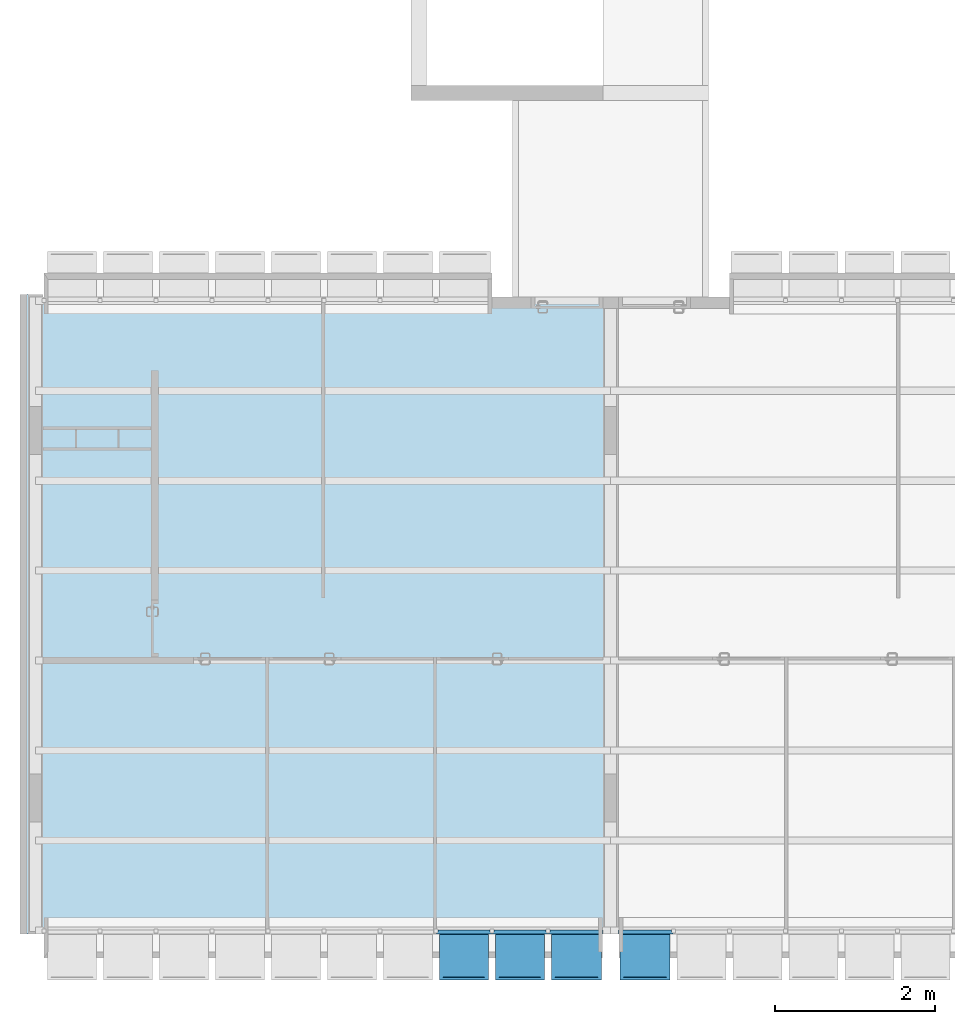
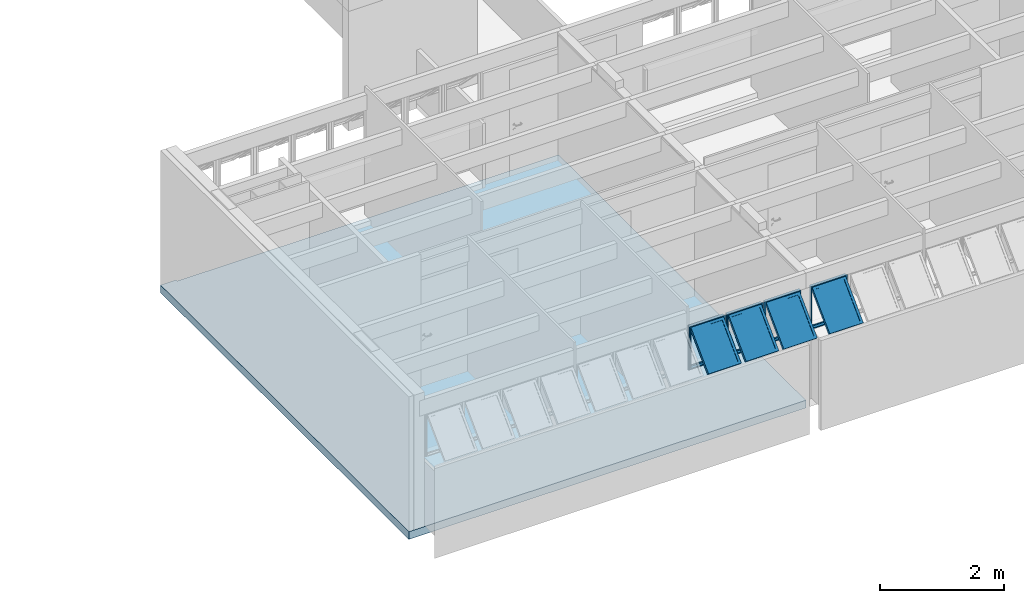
# One storey, part 5 of 40: 4 plates, 1 slab, 2 elements without a shape of their own.
"""IFC4 building model written with IfcOpenShell, lengths in millimetres."""

from ifc_helpers import new_model, entity, si_unit, converted_unit, derived_unit, direction, frame, origin_with_axes, place, context, subcontext, project, spatial, line, indexed_curve, outline, extrude, polygons, source, transform, mapped, material, layer, layer_set, layer_usage, constituent, constituent_set, type_object, element, aggregate, save


model = new_model("IFC4")

# Units and contexts
model_context = context("Model", 3, precision=0.01, world=origin_with_axes(), true_north=direction((0.0, 1.0)))
body_context = subcontext(model_context, "Body", "Model", "MODEL_VIEW")
ifc_project = project(units=[si_unit("LENGTHUNIT", "METRE", prefix="MILLI"), si_unit("AREAUNIT", "SQUARE_METRE"), si_unit("VOLUMEUNIT", "CUBIC_METRE"), converted_unit("PLANEANGLEUNIT", "DEGREE", entity("IfcPlaneAngleMeasure", 0.0174532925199), si_unit("PLANEANGLEUNIT", "RADIAN"), dimensions=[0, 0, 0, 0, 0, 0, 0]), converted_unit("TIMEUNIT", "Year", entity("IfcTimeMeasure", 31556926.0), si_unit("TIMEUNIT", "SECOND"), dimensions=[0, 0, 1, 0, 0, 0, 0]), si_unit("MASSUNIT", "GRAM", prefix="KILO"), si_unit("THERMODYNAMICTEMPERATUREUNIT", "DEGREE_CELSIUS"), si_unit("LUMINOUSINTENSITYUNIT", "LUMEN"), si_unit("ENERGYUNIT", "JOULE", prefix="MEGA"), derived_unit("THERMALCONDUCTANCEUNIT", [(si_unit("POWERUNIT", "WATT"), 1), (si_unit("LENGTHUNIT", "METRE"), -1), (si_unit("THERMODYNAMICTEMPERATUREUNIT", "KELVIN"), -1)]), derived_unit("SPECIFICHEATCAPACITYUNIT", [(si_unit("ENERGYUNIT", "JOULE"), 1), (si_unit("MASSUNIT", "GRAM", prefix="KILO"), -1), (si_unit("THERMODYNAMICTEMPERATUREUNIT", "KELVIN"), -1)]), derived_unit("MASSDENSITYUNIT", [(si_unit("MASSUNIT", "GRAM", prefix="KILO"), 1), (si_unit("VOLUMEUNIT", "CUBIC_METRE"), -1)])], contexts=[model_context])

# Site, building, storey
site_placement = place(None, origin_with_axes())
site = spatial("IfcSite", under=ifc_project, at=site_placement, Name="Local", CompositionType="ELEMENT")
building_placement = place(site_placement, origin_with_axes())
building = spatial("IfcBuilding", under=site, at=building_placement, Name="Construção", CompositionType="ELEMENT")
storey_placement = place(building_placement, frame((0.0, 0.0, 5300.0), z_axis=(0.0, 0.0, 1.0), x_axis=(1.0, 0.0, 0.0)))
storey = spatial("IfcBuildingStorey", under=building, at=storey_placement, Name="Terceiro Pavimento", CompositionType="ELEMENT", Elevation=5300.0)

# Slab
ifc_material_1 = material(Name="Concreto Armado Moldado in Loco - Estrutural")
ifc_layer = layer(ifc_material_1, 150.0, ventilated="UNKNOWN", Name="Concreto Armado Moldado in Loco - Estrutural")
ifc_layer_set = layer_set([ifc_layer], Name="Concreto Armado Moldado in Loco - Estrutural 150")
ifc_layer_usage = layer_usage(ifc_layer_set, "AXIS3", "NEGATIVE", 150.0)
slab_type = type_object("IfcSlabType", Name="Concreto Armado Moldado in Loco - Estrutural 150", PredefinedType="FLOOR")
slab_placement = place(storey_placement, frame((0.0, 300.0, 0.0), z_axis=(0.0, 0.0, 1.0), x_axis=(1.0, 0.0, 0.0)))
element("IfcSlab", 1, at=slab_placement, inside=storey, type_object=slab_type, material=ifc_layer_usage, Name="APTO9-LAJE-000", PredefinedType="FLOOR", context=body_context, shape_type="SweptSolid", body=[
    extrude(outline(indexed_curve([(0.0, 0.0), (299.999978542, 0.0), (7385.0, 0.0), (7385.0, 7964.99999866), (6160.00008404, 7964.99999866), (5900.0, 7965.0), (290.0, 7965.0), (289.999999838, 8000.00000006), (0.0, 7999.99999872)], segments=[line(1, 2, 3, 4, 5, 6, 7, 8, 9, 1)])), frame((0.0, 0.0, -150.0), z_axis=(0.0, 0.0, 1.0), x_axis=(1.0, 0.0, 0.0)), (0.0, 0.0, 1.0), 150.0),
])

# Window, plates
window_type = type_object("IfcWindowType", Name="Tipo de Parede Cortina", PartitioningType="NOTDEFINED", PredefinedType="NOTDEFINED")
window_1_placement = place(storey_placement, frame((6250.0, 315.020977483, 1355.02054151), z_axis=(0.0, 0.0, 1.0), x_axis=(1.0, 0.0, 0.0)))
window_1 = element("IfcWindow", 2, at=window_1_placement, inside=storey, type_object=window_type, Name="APTO9-JANELA-001", PredefinedType="NOTDEFINED")
ifc_material_2 = material(Name="Alumínio")
ifc_constituent_1 = constituent(ifc_material_2, Name="Alumínio")
ifc_material_3 = material(Name="Vidro")
ifc_constituent_2 = constituent(ifc_material_3, Name="Vidro")
ifc_constituent_set_1 = constituent_set(constituents=[ifc_constituent_1, ifc_constituent_2])
plate_type_1 = type_object("IfcPlateType", Name="Painel Principal 690 x 845 x 20", PredefinedType="CURTAIN_PANEL")
shared_shape_1 = source(origin_with_axes(), body_context, "Body", "Tessellation", [
    polygons([(25.0000036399, 0.0, -40.0), (674.999997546, 0.0, -40.0), (674.999997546, 0.0, -35.0), (25.0000036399, 0.0, -35.0), (70.0000036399, 45.0, -40.0), (629.999997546, 45.0, -40.0), (629.999997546, 45.0, -35.0), (70.0000036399, 45.0, -35.0)], [[[1, 2, 3, 4]], [[1, 5, 6, 2]], [[2, 6, 7, 3]], [[4, 3, 7, 8]], [[5, 1, 4, 8]], [[6, 5, 8, 7]]], closed=True),
    polygons([(674.999997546, 0.0, -40.0), (674.999997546, 844.999891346, -40.0), (674.999997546, 844.999891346, -35.0), (674.999997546, 0.0, -35.0), (629.999997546, 45.0, -40.0), (629.999997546, 799.999891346, -40.0), (629.999997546, 799.999891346, -35.0), (629.999997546, 45.0, -35.0)], [[[1, 2, 3, 4]], [[1, 5, 6, 2]], [[2, 6, 7, 3]], [[4, 3, 7, 8]], [[5, 1, 4, 8]], [[6, 5, 8, 7]]], closed=True),
    polygons([(25.0000036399, 844.999891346, -40.0), (70.0000036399, 799.999891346, -40.0), (70.0000036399, 799.999891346, -35.0), (25.0000036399, 844.999891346, -35.0), (674.999997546, 844.999891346, -40.0), (629.999997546, 799.999891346, -40.0), (629.999997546, 799.999891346, -35.0), (674.999997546, 844.999891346, -35.0)], [[[1, 2, 3, 4]], [[1, 5, 6, 2]], [[2, 6, 7, 3]], [[4, 3, 7, 8]], [[5, 1, 4, 8]], [[6, 5, 8, 7]]], closed=True),
    polygons([(25.0000036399, 0.0, -40.0), (70.0000036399, 45.0, -40.0), (70.0000036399, 45.0, -35.0), (25.0000036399, 0.0, -35.0), (25.0000036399, 844.999891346, -40.0), (70.0000036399, 799.999891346, -40.0), (70.0000036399, 799.999891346, -35.0), (25.0000036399, 844.999891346, -35.0)], [[[1, 2, 3, 4]], [[1, 5, 6, 2]], [[2, 6, 7, 3]], [[4, 3, 7, 8]], [[5, 1, 4, 8]], [[6, 5, 8, 7]]], closed=True),
    polygons([(25.0000036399, 0.0, -35.0), (674.999997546, 0.0, -35.0), (674.999997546, 0.0, 15.0), (25.0000036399, 0.0, 15.0), (45.0000036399, 20.0, -35.0), (654.999997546, 20.0, -35.0), (654.999997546, 20.0, 15.0), (45.0000036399, 20.0, 15.0)], [[[1, 2, 3, 4]], [[1, 5, 6, 2]], [[2, 6, 7, 3]], [[4, 3, 7, 8]], [[5, 1, 4, 8]], [[6, 5, 8, 7]]], closed=True),
    polygons([(674.999997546, 0.0, -35.0), (674.999997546, 844.999891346, -35.0), (674.999997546, 844.999891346, 15.0), (674.999997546, 0.0, 15.0), (654.999997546, 20.0, -35.0), (654.999997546, 824.999891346, -35.0), (654.999997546, 824.999891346, 15.0), (654.999997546, 20.0, 15.0)], [[[1, 2, 3, 4]], [[1, 5, 6, 2]], [[2, 6, 7, 3]], [[4, 3, 7, 8]], [[5, 1, 4, 8]], [[6, 5, 8, 7]]], closed=True),
    polygons([(25.0000036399, 844.999891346, -35.0), (45.0000036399, 824.999891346, -35.0), (45.0000036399, 824.999891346, 15.0), (25.0000036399, 844.999891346, 15.0), (674.999997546, 844.999891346, -35.0), (654.999997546, 824.999891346, -35.0), (654.999997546, 824.999891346, 15.0), (674.999997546, 844.999891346, 15.0)], [[[1, 2, 3, 4]], [[1, 5, 6, 2]], [[2, 6, 7, 3]], [[4, 3, 7, 8]], [[5, 1, 4, 8]], [[6, 5, 8, 7]]], closed=True),
    polygons([(25.0000036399, 0.0, -35.0), (45.0000036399, 20.0, -35.0), (45.0000036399, 20.0, 15.0), (25.0000036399, 0.0, 15.0), (25.0000036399, 844.999891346, -35.0), (45.0000036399, 824.999891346, -35.0), (45.0000036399, 824.999891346, 15.0), (25.0000036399, 844.999891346, 15.0)], [[[1, 2, 3, 4]], [[1, 5, 6, 2]], [[2, 6, 7, 3]], [[4, 3, 7, 8]], [[5, 1, 4, 8]], [[6, 5, 8, 7]]], closed=True),
    polygons([(694.999995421, 0.0, -10.0), (694.999995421, 844.999891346, -10.0), (694.999995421, 844.999891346, 10.0), (694.999995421, 0.0, 10.0), (674.999997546, 0.0, -10.0), (674.999997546, 844.999891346, -10.0), (674.999997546, 844.999891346, 10.0), (674.999997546, 0.0, 10.0)], [[[1, 2, 3, 4]], [[1, 5, 6, 2]], [[2, 6, 7, 3]], [[4, 3, 7, 8]], [[5, 1, 4, 8]], [[6, 5, 8, 7]]], closed=True),
    polygons([(5.00000576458, 844.999891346, -10.0), (5.00000576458, 0.0, -10.0), (5.00000576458, 0.0, 10.0), (5.00000576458, 844.999891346, 10.0), (25.0000036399, 844.999891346, -10.0), (25.0000036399, 0.0, -10.0), (25.0000036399, 0.0, 10.0), (25.0000036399, 844.999891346, 10.0)], [[[1, 2, 3, 4]], [[1, 5, 6, 2]], [[2, 6, 7, 3]], [[4, 3, 7, 8]], [[5, 1, 4, 8]], [[6, 5, 8, 7]]], closed=True),
    polygons([(90.0000036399, 252.243475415, 517.045737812), (90.0000036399, 757.824747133, 11.4644660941), (90.0000036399, 796.715620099, 50.3553390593), (90.0000036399, 291.13434838, 555.936610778), (45.0000036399, 220.423670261, 548.865542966), (45.0000036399, 789.644552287, -20.3553390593), (45.0000036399, 828.535425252, 18.5355339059), (45.0000036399, 259.314543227, 587.756415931)], [[[1, 2, 3, 4]], [[1, 5, 6, 2]], [[2, 6, 7, 3]], [[4, 3, 7, 8]], [[5, 1, 4, 8]], [[6, 5, 8, 7]]], closed=True),
    polygons([(654.999997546, 220.423670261, 548.865542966), (654.999997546, 789.644552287, -20.3553390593), (654.999997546, 828.535425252, 18.5355339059), (654.999997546, 259.314543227, 587.756415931), (609.999997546, 252.243475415, 517.045737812), (609.999997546, 757.824747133, 11.4644660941), (609.999997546, 796.715620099, 50.3553390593), (609.999997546, 291.13434838, 555.936610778)], [[[1, 2, 3, 4]], [[1, 5, 6, 2]], [[2, 6, 7, 3]], [[4, 3, 7, 8]], [[5, 1, 4, 8]], [[6, 5, 8, 7]]], closed=True),
    polygons([(654.999997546, 220.423670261, 548.865542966), (609.999997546, 252.243475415, 517.045737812), (609.999997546, 291.13434838, 555.936610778), (654.999997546, 259.314543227, 587.756415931), (45.0000036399, 220.423670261, 548.865542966), (90.0000036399, 252.243475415, 517.045737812), (90.0000036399, 291.13434838, 555.936610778), (45.0000036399, 259.314543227, 587.756415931)], [[[1, 2, 3, 4]], [[1, 5, 6, 2]], [[2, 6, 7, 3]], [[4, 3, 7, 8]], [[5, 1, 4, 8]], [[6, 5, 8, 7]]], closed=True),
    polygons([(45.0000036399, 789.644552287, -20.3553390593), (90.0000036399, 757.824747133, 11.4644660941), (90.0000036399, 796.715620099, 50.3553390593), (45.0000036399, 828.535425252, 18.5355339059), (654.999997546, 789.644552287, -20.3553390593), (609.999997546, 757.824747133, 11.4644660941), (609.999997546, 796.715620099, 50.3553390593), (654.999997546, 828.535425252, 18.5355339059)], [[[1, 2, 3, 4]], [[1, 5, 6, 2]], [[2, 6, 7, 3]], [[4, 3, 7, 8]], [[5, 1, 4, 8]], [[6, 5, 8, 7]]], closed=True),
    polygons([(90.0000036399, 272.749572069, 537.551834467), (609.999997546, 272.749572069, 537.551834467), (609.999997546, 284.063280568, 548.865542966), (90.0000036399, 284.063280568, 548.865542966), (90.0000036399, 778.330843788, 31.9705627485), (609.999997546, 778.330843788, 31.9705627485), (609.999997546, 789.644552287, 43.2842712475), (90.0000036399, 789.644552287, 43.2842712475)], [[[1, 2, 3, 4]], [[1, 5, 6, 2]], [[2, 6, 7, 3]], [[4, 3, 7, 8]], [[5, 1, 4, 8]], [[6, 5, 8, 7]]], closed=True),
])
plate_1_placement = place(window_1_placement, frame((0.0, 0.0, 422.499945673), z_axis=(0.0, 0.0, 1.0), x_axis=(-1.0, 0.0, 0.0)))
plate_1 = element("IfcPlate", 3, at=plate_1_placement, type_object=plate_type_1, material=ifc_constituent_set_1, Name="APTO9-Painel-Prin-030", PredefinedType="CURTAIN_PANEL", context=body_context, shape_type="MappedRepresentation", body=[
    mapped(shared_shape_1, transform((350.0, 0.0, -422.499945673), x_axis=(-1.0, 0.0, 0.0), y_axis=(0.0, 0.0, 1.0), z_axis=(0.0, 1.0, 0.0))),
])
ifc_constituent_3 = constituent(ifc_material_2, Name="Alumínio")
ifc_constituent_4 = constituent(ifc_material_3, Name="Vidro")
ifc_constituent_set_2 = constituent_set(constituents=[ifc_constituent_3, ifc_constituent_4])
plate_2_placement = place(window_1_placement, frame((-700.0, 0.0, 422.499945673), z_axis=(0.0, 0.0, 1.0), x_axis=(-1.0, 0.0, 0.0)))
plate_2 = element("IfcPlate", 4, at=plate_2_placement, type_object=plate_type_1, material=ifc_constituent_set_2, Name="APTO9-Painel-Prin-020", PredefinedType="CURTAIN_PANEL", context=body_context, shape_type="MappedRepresentation", body=[
    mapped(shared_shape_1, transform((350.0, 0.0, -422.499945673), x_axis=(-1.0, 0.0, 0.0), y_axis=(0.0, 0.0, 1.0), z_axis=(0.0, 1.0, 0.0))),
])
ifc_constituent_5 = constituent(ifc_material_2, Name="Alumínio")
ifc_constituent_6 = constituent(ifc_material_3, Name="Vidro")
ifc_constituent_set_3 = constituent_set(constituents=[ifc_constituent_5, ifc_constituent_6])
plate_type_2 = type_object("IfcPlateType", Name="Painel Principal 685 x 845 x 20", PredefinedType="CURTAIN_PANEL")
shared_shape_2 = source(origin_with_axes(), body_context, "Body", "Tessellation", [
    polygons([(25.0000046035, 0.0, -40.0), (690.000079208, 0.0, -40.0), (690.000079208, 0.0, -35.0), (25.0000046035, 0.0, -35.0), (70.0000046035, 45.0, -40.0), (645.000079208, 45.0, -40.0), (645.000079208, 45.0, -35.0), (70.0000046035, 45.0, -35.0)], [[[1, 2, 3, 4]], [[1, 5, 6, 2]], [[2, 6, 7, 3]], [[4, 3, 7, 8]], [[5, 1, 4, 8]], [[6, 5, 8, 7]]], closed=True),
    polygons([(690.000079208, 0.0, -40.0), (690.000079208, 844.999923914, -40.0), (690.000079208, 844.999923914, -35.0), (690.000079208, 0.0, -35.0), (645.000079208, 45.0, -40.0), (645.000079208, 799.999923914, -40.0), (645.000079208, 799.999923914, -35.0), (645.000079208, 45.0, -35.0)], [[[1, 2, 3, 4]], [[1, 5, 6, 2]], [[2, 6, 7, 3]], [[4, 3, 7, 8]], [[5, 1, 4, 8]], [[6, 5, 8, 7]]], closed=True),
    polygons([(25.0000046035, 844.999923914, -40.0), (70.0000046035, 799.999923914, -40.0), (70.0000046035, 799.999923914, -35.0), (25.0000046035, 844.999923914, -35.0), (690.000079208, 844.999923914, -40.0), (645.000079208, 799.999923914, -40.0), (645.000079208, 799.999923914, -35.0), (690.000079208, 844.999923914, -35.0)], [[[1, 2, 3, 4]], [[1, 5, 6, 2]], [[2, 6, 7, 3]], [[4, 3, 7, 8]], [[5, 1, 4, 8]], [[6, 5, 8, 7]]], closed=True),
    polygons([(25.0000046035, 0.0, -40.0), (70.0000046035, 45.0, -40.0), (70.0000046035, 45.0, -35.0), (25.0000046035, 0.0, -35.0), (25.0000046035, 844.999923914, -40.0), (70.0000046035, 799.999923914, -40.0), (70.0000046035, 799.999923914, -35.0), (25.0000046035, 844.999923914, -35.0)], [[[1, 2, 3, 4]], [[1, 5, 6, 2]], [[2, 6, 7, 3]], [[4, 3, 7, 8]], [[5, 1, 4, 8]], [[6, 5, 8, 7]]], closed=True),
    polygons([(25.0000046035, 0.0, -35.0), (690.000079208, 0.0, -35.0), (690.000079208, 0.0, 15.0), (25.0000046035, 0.0, 15.0), (45.0000046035, 20.0, -35.0), (670.000079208, 20.0, -35.0), (670.000079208, 20.0, 15.0), (45.0000046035, 20.0, 15.0)], [[[1, 2, 3, 4]], [[1, 5, 6, 2]], [[2, 6, 7, 3]], [[4, 3, 7, 8]], [[5, 1, 4, 8]], [[6, 5, 8, 7]]], closed=True),
    polygons([(690.000079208, 0.0, -35.0), (690.000079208, 844.999923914, -35.0), (690.000079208, 844.999923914, 15.0), (690.000079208, 0.0, 15.0), (670.000079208, 20.0, -35.0), (670.000079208, 824.999923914, -35.0), (670.000079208, 824.999923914, 15.0), (670.000079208, 20.0, 15.0)], [[[1, 2, 3, 4]], [[1, 5, 6, 2]], [[2, 6, 7, 3]], [[4, 3, 7, 8]], [[5, 1, 4, 8]], [[6, 5, 8, 7]]], closed=True),
    polygons([(25.0000046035, 844.999923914, -35.0), (45.0000046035, 824.999923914, -35.0), (45.0000046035, 824.999923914, 15.0), (25.0000046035, 844.999923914, 15.0), (690.000079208, 844.999923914, -35.0), (670.000079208, 824.999923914, -35.0), (670.000079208, 824.999923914, 15.0), (690.000079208, 844.999923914, 15.0)], [[[1, 2, 3, 4]], [[1, 5, 6, 2]], [[2, 6, 7, 3]], [[4, 3, 7, 8]], [[5, 1, 4, 8]], [[6, 5, 8, 7]]], closed=True),
    polygons([(25.0000046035, 0.0, -35.0), (45.0000046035, 20.0, -35.0), (45.0000046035, 20.0, 15.0), (25.0000046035, 0.0, 15.0), (25.0000046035, 844.999923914, -35.0), (45.0000046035, 824.999923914, -35.0), (45.0000046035, 824.999923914, 15.0), (25.0000046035, 844.999923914, 15.0)], [[[1, 2, 3, 4]], [[1, 5, 6, 2]], [[2, 6, 7, 3]], [[4, 3, 7, 8]], [[5, 1, 4, 8]], [[6, 5, 8, 7]]], closed=True),
    polygons([(5.00000595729, 844.999923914, -10.0), (5.00000595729, 0.0, -10.0), (5.00000595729, 0.0, 10.0), (5.00000595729, 844.999923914, 10.0), (25.0000046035, 844.999923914, -10.0), (25.0000046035, 0.0, -10.0), (25.0000046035, 0.0, 10.0), (25.0000046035, 844.999923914, 10.0)], [[[1, 2, 3, 4]], [[1, 5, 6, 2]], [[2, 6, 7, 3]], [[4, 3, 7, 8]], [[5, 1, 4, 8]], [[6, 5, 8, 7]]], closed=True),
    polygons([(90.0000046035, 252.243484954, 517.045760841), (90.0000046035, 757.824779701, 11.4644660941), (90.0000046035, 796.715652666, 50.3553390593), (90.0000046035, 291.134357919, 555.936633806), (45.0000046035, 220.4236798, 548.865565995), (45.0000046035, 789.644584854, -20.3553390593), (45.0000046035, 828.535457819, 18.5355339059), (45.0000046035, 259.314552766, 587.75643896)], [[[1, 2, 3, 4]], [[1, 5, 6, 2]], [[2, 6, 7, 3]], [[4, 3, 7, 8]], [[5, 1, 4, 8]], [[6, 5, 8, 7]]], closed=True),
    polygons([(670.000079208, 220.4236798, 548.865565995), (670.000079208, 789.644584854, -20.3553390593), (670.000079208, 828.535457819, 18.5355339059), (670.000079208, 259.314552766, 587.75643896), (625.000079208, 252.243484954, 517.045760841), (625.000079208, 757.824779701, 11.4644660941), (625.000079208, 796.715652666, 50.3553390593), (625.000079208, 291.134357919, 555.936633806)], [[[1, 2, 3, 4]], [[1, 5, 6, 2]], [[2, 6, 7, 3]], [[4, 3, 7, 8]], [[5, 1, 4, 8]], [[6, 5, 8, 7]]], closed=True),
    polygons([(670.000079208, 220.4236798, 548.865565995), (625.000079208, 252.243484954, 517.045760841), (625.000079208, 291.134357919, 555.936633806), (670.000079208, 259.314552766, 587.75643896), (45.0000046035, 220.4236798, 548.865565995), (90.0000046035, 252.243484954, 517.045760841), (90.0000046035, 291.134357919, 555.936633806), (45.0000046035, 259.314552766, 587.75643896)], [[[1, 2, 3, 4]], [[1, 5, 6, 2]], [[2, 6, 7, 3]], [[4, 3, 7, 8]], [[5, 1, 4, 8]], [[6, 5, 8, 7]]], closed=True),
    polygons([(45.0000046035, 789.644584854, -20.3553390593), (90.0000046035, 757.824779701, 11.4644660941), (90.0000046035, 796.715652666, 50.3553390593), (45.0000046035, 828.535457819, 18.5355339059), (670.000079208, 789.644584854, -20.3553390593), (625.000079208, 757.824779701, 11.4644660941), (625.000079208, 796.715652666, 50.3553390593), (670.000079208, 828.535457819, 18.5355339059)], [[[1, 2, 3, 4]], [[1, 5, 6, 2]], [[2, 6, 7, 3]], [[4, 3, 7, 8]], [[5, 1, 4, 8]], [[6, 5, 8, 7]]], closed=True),
    polygons([(90.0000046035, 272.749581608, 537.551857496), (625.000079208, 272.749581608, 537.551857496), (625.000079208, 284.063290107, 548.865565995), (90.0000046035, 284.063290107, 548.865565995), (90.0000046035, 778.330876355, 31.9705627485), (625.000079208, 778.330876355, 31.9705627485), (625.000079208, 789.644584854, 43.2842712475), (90.0000046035, 789.644584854, 43.2842712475)], [[[1, 2, 3, 4]], [[1, 5, 6, 2]], [[2, 6, 7, 3]], [[4, 3, 7, 8]], [[5, 1, 4, 8]], [[6, 5, 8, 7]]], closed=True),
])
plate_3_placement = place(window_1_placement, frame((695.000037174, 0.0, 422.499953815), z_axis=(0.0, 0.0, 1.0), x_axis=(-1.0, 0.0, 0.0)))
plate_3 = element("IfcPlate", 5, at=plate_3_placement, type_object=plate_type_2, material=ifc_constituent_set_3, Name="APTO9-Painel-Prin-031", PredefinedType="CURTAIN_PANEL", context=body_context, shape_type="MappedRepresentation", body=[
    mapped(shared_shape_2, transform((345.000037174, 0.0, -422.499953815), x_axis=(-1.0, 0.0, 0.0), y_axis=(0.0, 0.0, 1.0), z_axis=(0.0, 1.0, 0.0))),
])
aggregate(window_1, [plate_1, plate_3, plate_2])

# Window, plate
window_2_placement = place(storey_placement, frame((8520.0, 315.020977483, 1355.02054151), z_axis=(0.0, 0.0, 1.0), x_axis=(1.0, 0.0, 0.0)))
window_2 = element("IfcWindow", 6, at=window_2_placement, inside=storey, type_object=window_type, Name="APTO10-JANELA-001", PredefinedType="NOTDEFINED")
ifc_constituent_7 = constituent(ifc_material_2, Name="Alumínio")
ifc_constituent_8 = constituent(ifc_material_3, Name="Vidro")
ifc_constituent_set_4 = constituent_set(constituents=[ifc_constituent_7, ifc_constituent_8])
shared_shape_3 = source(origin_with_axes(), body_context, "Body", "Tessellation", [
    polygons([(-25.0000046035, 0.0, -40.0), (-25.0000046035, 0.0, -35.0), (-690.000079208, 0.0, -35.0), (-690.000079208, 0.0, -40.0), (-70.0000046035, 45.0, -40.0), (-70.0000046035, 45.0, -35.0), (-645.000079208, 45.0, -35.0), (-645.000079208, 45.0, -40.0)], [[[1, 2, 3, 4]], [[5, 6, 2, 1]], [[2, 6, 7, 3]], [[4, 3, 7, 8]], [[1, 4, 8, 5]], [[8, 7, 6, 5]]], closed=True),
    polygons([(-690.000079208, 0.0, -40.0), (-690.000079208, 0.0, -35.0), (-690.000079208, 844.999923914, -35.0), (-690.000079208, 844.999923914, -40.0), (-645.000079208, 45.0, -40.0), (-645.000079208, 45.0, -35.0), (-645.000079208, 799.999923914, -35.0), (-645.000079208, 799.999923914, -40.0)], [[[1, 2, 3, 4]], [[5, 6, 2, 1]], [[2, 6, 7, 3]], [[4, 3, 7, 8]], [[1, 4, 8, 5]], [[8, 7, 6, 5]]], closed=True),
    polygons([(-25.0000046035, 844.999923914, -40.0), (-25.0000046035, 844.999923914, -35.0), (-70.0000046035, 799.999923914, -35.0), (-70.0000046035, 799.999923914, -40.0), (-690.000079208, 844.999923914, -40.0), (-690.000079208, 844.999923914, -35.0), (-645.000079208, 799.999923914, -35.0), (-645.000079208, 799.999923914, -40.0)], [[[1, 2, 3, 4]], [[5, 6, 2, 1]], [[2, 6, 7, 3]], [[4, 3, 7, 8]], [[1, 4, 8, 5]], [[8, 7, 6, 5]]], closed=True),
    polygons([(-25.0000046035, 0.0, -40.0), (-25.0000046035, 0.0, -35.0), (-70.0000046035, 45.0, -35.0), (-70.0000046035, 45.0, -40.0), (-25.0000046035, 844.999923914, -40.0), (-25.0000046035, 844.999923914, -35.0), (-70.0000046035, 799.999923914, -35.0), (-70.0000046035, 799.999923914, -40.0)], [[[1, 2, 3, 4]], [[5, 6, 2, 1]], [[2, 6, 7, 3]], [[4, 3, 7, 8]], [[1, 4, 8, 5]], [[8, 7, 6, 5]]], closed=True),
    polygons([(-25.0000046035, 0.0, -35.0), (-25.0000046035, 0.0, 15.0), (-690.000079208, 0.0, 15.0), (-690.000079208, 0.0, -35.0), (-45.0000046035, 20.0, -35.0), (-45.0000046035, 20.0, 15.0), (-670.000079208, 20.0, 15.0), (-670.000079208, 20.0, -35.0)], [[[1, 2, 3, 4]], [[5, 6, 2, 1]], [[2, 6, 7, 3]], [[4, 3, 7, 8]], [[1, 4, 8, 5]], [[8, 7, 6, 5]]], closed=True),
    polygons([(-690.000079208, 0.0, -35.0), (-690.000079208, 0.0, 15.0), (-690.000079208, 844.999923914, 15.0), (-690.000079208, 844.999923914, -35.0), (-670.000079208, 20.0, -35.0), (-670.000079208, 20.0, 15.0), (-670.000079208, 824.999923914, 15.0), (-670.000079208, 824.999923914, -35.0)], [[[1, 2, 3, 4]], [[5, 6, 2, 1]], [[2, 6, 7, 3]], [[4, 3, 7, 8]], [[1, 4, 8, 5]], [[8, 7, 6, 5]]], closed=True),
    polygons([(-25.0000046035, 844.999923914, -35.0), (-25.0000046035, 844.999923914, 15.0), (-45.0000046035, 824.999923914, 15.0), (-45.0000046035, 824.999923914, -35.0), (-690.000079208, 844.999923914, -35.0), (-690.000079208, 844.999923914, 15.0), (-670.000079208, 824.999923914, 15.0), (-670.000079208, 824.999923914, -35.0)], [[[1, 2, 3, 4]], [[5, 6, 2, 1]], [[2, 6, 7, 3]], [[4, 3, 7, 8]], [[1, 4, 8, 5]], [[8, 7, 6, 5]]], closed=True),
    polygons([(-25.0000046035, 0.0, -35.0), (-25.0000046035, 0.0, 15.0), (-45.0000046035, 20.0, 15.0), (-45.0000046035, 20.0, -35.0), (-25.0000046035, 844.999923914, -35.0), (-25.0000046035, 844.999923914, 15.0), (-45.0000046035, 824.999923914, 15.0), (-45.0000046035, 824.999923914, -35.0)], [[[1, 2, 3, 4]], [[5, 6, 2, 1]], [[2, 6, 7, 3]], [[4, 3, 7, 8]], [[1, 4, 8, 5]], [[8, 7, 6, 5]]], closed=True),
    polygons([(-5.00000595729, 844.999923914, -10.0), (-5.00000595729, 844.999923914, 10.0), (-5.00000595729, 0.0, 10.0), (-5.00000595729, 0.0, -10.0), (-25.0000046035, 844.999923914, -10.0), (-25.0000046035, 844.999923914, 10.0), (-25.0000046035, 0.0, 10.0), (-25.0000046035, 0.0, -10.0)], [[[1, 2, 3, 4]], [[5, 6, 2, 1]], [[2, 6, 7, 3]], [[4, 3, 7, 8]], [[1, 4, 8, 5]], [[8, 7, 6, 5]]], closed=True),
    polygons([(-90.0000046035, 252.243484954, 517.045760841), (-90.0000046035, 291.134357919, 555.936633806), (-90.0000046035, 796.715652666, 50.3553390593), (-90.0000046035, 757.824779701, 11.4644660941), (-45.0000046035, 220.4236798, 548.865565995), (-45.0000046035, 259.314552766, 587.75643896), (-45.0000046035, 828.535457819, 18.5355339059), (-45.0000046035, 789.644584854, -20.3553390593)], [[[1, 2, 3, 4]], [[5, 6, 2, 1]], [[2, 6, 7, 3]], [[4, 3, 7, 8]], [[1, 4, 8, 5]], [[8, 7, 6, 5]]], closed=True),
    polygons([(-670.000079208, 220.4236798, 548.865565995), (-670.000079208, 259.314552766, 587.75643896), (-670.000079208, 828.535457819, 18.5355339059), (-670.000079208, 789.644584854, -20.3553390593), (-625.000079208, 252.243484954, 517.045760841), (-625.000079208, 291.134357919, 555.936633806), (-625.000079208, 796.715652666, 50.3553390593), (-625.000079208, 757.824779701, 11.4644660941)], [[[1, 2, 3, 4]], [[5, 6, 2, 1]], [[2, 6, 7, 3]], [[4, 3, 7, 8]], [[1, 4, 8, 5]], [[8, 7, 6, 5]]], closed=True),
    polygons([(-670.000079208, 220.4236798, 548.865565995), (-670.000079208, 259.314552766, 587.75643896), (-625.000079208, 291.134357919, 555.936633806), (-625.000079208, 252.243484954, 517.045760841), (-45.0000046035, 220.4236798, 548.865565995), (-45.0000046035, 259.314552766, 587.75643896), (-90.0000046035, 291.134357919, 555.936633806), (-90.0000046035, 252.243484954, 517.045760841)], [[[1, 2, 3, 4]], [[5, 6, 2, 1]], [[2, 6, 7, 3]], [[4, 3, 7, 8]], [[1, 4, 8, 5]], [[8, 7, 6, 5]]], closed=True),
    polygons([(-45.0000046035, 789.644584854, -20.3553390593), (-45.0000046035, 828.535457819, 18.5355339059), (-90.0000046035, 796.715652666, 50.3553390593), (-90.0000046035, 757.824779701, 11.4644660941), (-670.000079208, 789.644584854, -20.3553390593), (-670.000079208, 828.535457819, 18.5355339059), (-625.000079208, 796.715652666, 50.3553390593), (-625.000079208, 757.824779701, 11.4644660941)], [[[1, 2, 3, 4]], [[5, 6, 2, 1]], [[2, 6, 7, 3]], [[4, 3, 7, 8]], [[1, 4, 8, 5]], [[8, 7, 6, 5]]], closed=True),
    polygons([(-90.0000046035, 272.749581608, 537.551857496), (-90.0000046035, 284.063290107, 548.865565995), (-625.000079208, 284.063290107, 548.865565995), (-625.000079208, 272.749581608, 537.551857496), (-90.0000046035, 778.330876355, 31.9705627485), (-90.0000046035, 789.644584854, 43.2842712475), (-625.000079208, 789.644584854, 43.2842712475), (-625.000079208, 778.330876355, 31.9705627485)], [[[1, 2, 3, 4]], [[5, 6, 2, 1]], [[2, 6, 7, 3]], [[4, 3, 7, 8]], [[1, 4, 8, 5]], [[8, 7, 6, 5]]], closed=True),
])
plate_4_placement = place(window_2_placement, frame((-695.000037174, 0.0, 422.499953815), z_axis=(0.0, 0.0, 1.0), x_axis=(1.0, 0.0, 0.0)))
plate_4 = element("IfcPlate", 7, at=plate_4_placement, type_object=plate_type_2, material=ifc_constituent_set_4, Name="APTO10-Painel-Prin-031", PredefinedType="CURTAIN_PANEL", context=body_context, shape_type="MappedRepresentation", body=[
    mapped(shared_shape_3, transform((345.000037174, 0.0, -422.499953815), x_axis=(1.0, 0.0, 0.0), y_axis=(0.0, 0.0, 1.0), z_axis=(0.0, -1.0, 0.0))),
])
aggregate(window_2, [plate_4])

save(model, "model.ifc")
